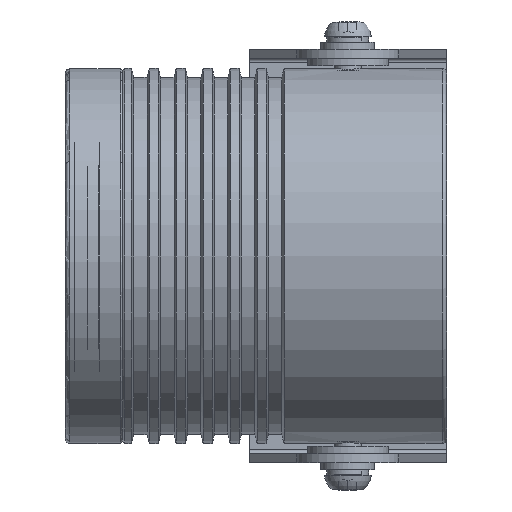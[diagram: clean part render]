
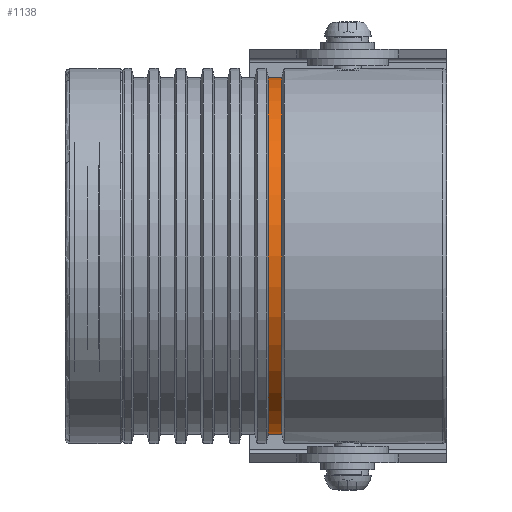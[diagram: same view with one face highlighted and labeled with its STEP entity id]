
A CAD part, front view. The second image highlights one B-rep face of the part: STEP entity #1138.
In plain terms, the highlighted cylindrical face has radius 39.75 mm (diameter 79.5 mm), a full revolution.
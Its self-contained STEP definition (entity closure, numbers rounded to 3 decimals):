
#1138=ADVANCED_FACE('',(#2548,#2550),#2552,.T.);
#2548=FACE_OUTER_BOUND('',#2549,.T.);
#2549=EDGE_LOOP('',(#3492));
#2550=FACE_OUTER_BOUND('',#2551,.T.);
#2551=EDGE_LOOP('',(#3493));
#2552=CYLINDRICAL_SURFACE('',#2553,39.75);
#2553=AXIS2_PLACEMENT_3D('',#2554,#2555,#2556);
#2554=CARTESIAN_POINT('',(-131.65,0.,0.));
#2555=DIRECTION('',(1.,-0.,-0.));
#2556=DIRECTION('',(0.,1.,0.));
#3492=ORIENTED_EDGE('',*,*,#3868,.F.);
#3493=ORIENTED_EDGE('',*,*,#3870,.T.);
#3868=EDGE_CURVE('',#4359,#4359,#4360,.T.);
#3870=EDGE_CURVE('',#4363,#4363,#4364,.T.);
#4359=VERTEX_POINT('',#7181);
#4360=CIRCLE('',#7182,39.75);
#4363=VERTEX_POINT('',#7254);
#4364=CIRCLE('',#7255,39.75);
#7181=CARTESIAN_POINT('',(-131.65,39.75,0.));
#7182=AXIS2_PLACEMENT_3D('',#7183,#7184,#7185);
#7183=CARTESIAN_POINT('',(-131.65,0.,0.));
#7184=DIRECTION('',(1.,-0.,0.));
#7185=DIRECTION('',(0.,1.,0.));
#7254=CARTESIAN_POINT('',(-134.65,39.75,0.));
#7255=AXIS2_PLACEMENT_3D('',#7256,#7257,#7258);
#7256=CARTESIAN_POINT('',(-134.65,0.,0.));
#7257=DIRECTION('',(1.,-0.,0.));
#7258=DIRECTION('',(0.,1.,0.));
